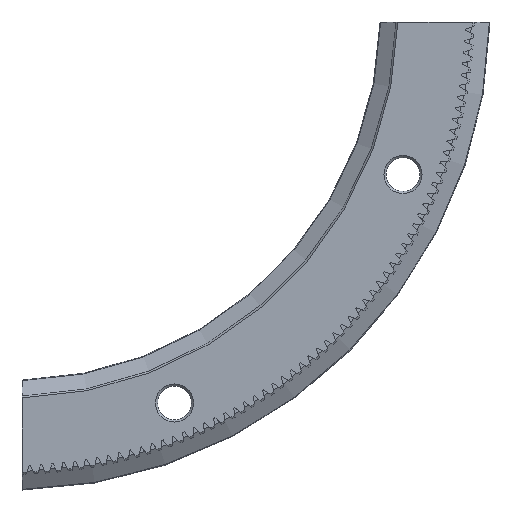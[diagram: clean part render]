
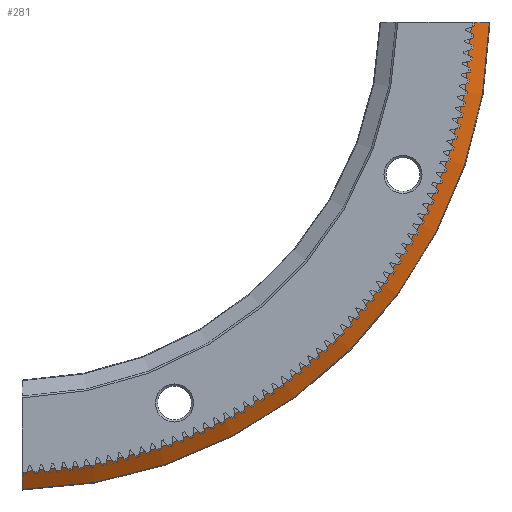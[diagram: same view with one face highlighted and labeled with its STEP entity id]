
A CAD part, front view. The second image highlights one B-rep face of the part: STEP entity #281.
In plain terms, the highlighted conical face has half-angle 55 degrees and reference radius 50.543 mm.
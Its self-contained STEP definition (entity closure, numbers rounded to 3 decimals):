
#281 = ADVANCED_FACE( '', ( #825 ), #826, .T. );
#825 = FACE_OUTER_BOUND( '', #1507, .T. );
#826 = CONICAL_SURFACE( '', #1508, 50.543, 0.96 );
#1507 = EDGE_LOOP( '', ( #3847, #3848, #3849, #3850 ) );
#1508 = AXIS2_PLACEMENT_3D( '', #3851, #3852, #3853 );
#3847 = ORIENTED_EDGE( '', *, *, #5665, .T. );
#3848 = ORIENTED_EDGE( '', *, *, #5666, .T. );
#3849 = ORIENTED_EDGE( '', *, *, #5663, .F. );
#3850 = ORIENTED_EDGE( '', *, *, #4768, .T. );
#3851 = CARTESIAN_POINT( '', ( 0., 4.7, 0. ) );
#3852 = DIRECTION( '', ( 0., 1., 0. ) );
#3853 = DIRECTION( '', ( 0., 0., 1. ) );
#4768 = EDGE_CURVE( '', #5772, #5770, #5773, .T. );
#5663 = EDGE_CURVE( '', #5772, #7296, #7297, .T. );
#5665 = EDGE_CURVE( '', #5770, #7299, #7300, .T. );
#5666 = EDGE_CURVE( '', #7299, #7296, #7301, .T. );
#5770 = VERTEX_POINT( '', #7448 );
#5772 = VERTEX_POINT( '', #7455 );
#5773 = B_SPLINE_CURVE_WITH_KNOTS( '', 3, ( #7456, #7457, #7458, #7459 ), .UNSPECIFIED., .F., .F., ( 4, 4 ), ( 0.027, 0.03 ), .UNSPECIFIED. );
#7296 = VERTEX_POINT( '', #9869 );
#7297 = CIRCLE( '', #9870, 50.543 );
#7299 = VERTEX_POINT( '', #9873 );
#7300 = CIRCLE( '', #9874, 52.474 );
#7301 = B_SPLINE_CURVE_WITH_KNOTS( '', 3, ( #9875, #9876, #9877, #9878 ), .UNSPECIFIED., .F., .F., ( 4, 4 ), ( 0.047, 0.049 ), .UNSPECIFIED. );
#7448 = CARTESIAN_POINT( '', ( 1., 6.053, -52.465 ) );
#7455 = CARTESIAN_POINT( '', ( 1., 4.7, -50.533 ) );
#7456 = CARTESIAN_POINT( '', ( 1., 4.7, -50.533 ) );
#7457 = CARTESIAN_POINT( '', ( 1., 5.151, -51.177 ) );
#7458 = CARTESIAN_POINT( '', ( 1., 5.602, -51.821 ) );
#7459 = CARTESIAN_POINT( '', ( 1., 6.053, -52.465 ) );
#9869 = CARTESIAN_POINT( '', ( 50.533, 4.7, -1. ) );
#9870 = AXIS2_PLACEMENT_3D( '', #11282, #11283, #11284 );
#9873 = CARTESIAN_POINT( '', ( 52.465, 6.053, -1. ) );
#9874 = AXIS2_PLACEMENT_3D( '', #11286, #11287, #11288 );
#9875 = CARTESIAN_POINT( '', ( 52.465, 6.053, -1. ) );
#9876 = CARTESIAN_POINT( '', ( 51.821, 5.602, -1. ) );
#9877 = CARTESIAN_POINT( '', ( 51.177, 5.151, -1. ) );
#9878 = CARTESIAN_POINT( '', ( 50.533, 4.7, -1. ) );
#11282 = CARTESIAN_POINT( '', ( 0., 4.7, 0. ) );
#11283 = DIRECTION( '', ( 0., -1., 0. ) );
#11284 = DIRECTION( '', ( 0., 0., -1. ) );
#11286 = CARTESIAN_POINT( '', ( 0., 6.053, 0. ) );
#11287 = DIRECTION( '', ( 0., -1., 0. ) );
#11288 = DIRECTION( '', ( 0., 0., -1. ) );
